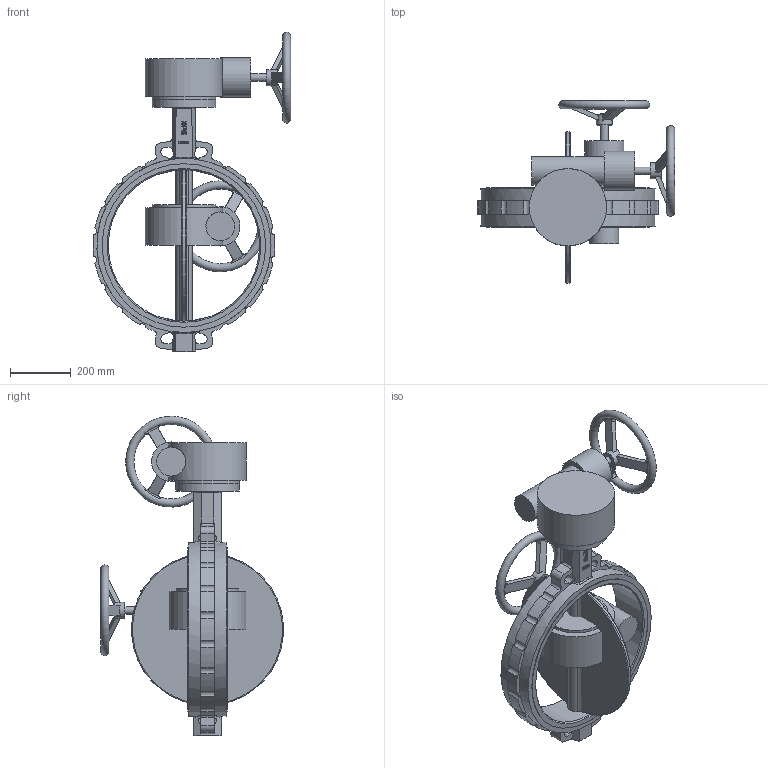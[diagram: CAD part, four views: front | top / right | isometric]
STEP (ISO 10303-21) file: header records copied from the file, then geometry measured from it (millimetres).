
FILE_DESCRIPTION( ( 'Unknown' ), '1' );
FILE_NAME( 'R:/ECCUA/ROOTSI BPS 3D vidinad/Poordklapid Wafer type/Butterfly valve(wafer) with gearbox BPS/STEP formaat/BPS 2303500 butterfly valve DN500.stp', 'Unknown', ( 'Unknown' ), ( 'Unknown' ), 'PSStep 10.1', 'Unknown', ' ' );
FILE_SCHEMA( ( 'AUTOMOTIVE_DESIGN { 1 0 10303 214 1 1 1 1 }' ) );
Length unit declared in the file: millimetre
Products named in the file (3): Assem1; Butterfly valve wafer type DN500 BPS; Gearbox DN500-600 BPS
Bounding box: 651.77 x 602.63 x 1054.89 mm (x, y, z)
Volume: 50239909.9 mm3; surface area: 3261482.7 mm2
Topology: 4 solids, 4 shells, 562 faces, 1548 edges, 1024 vertices
Faces by surface type: cylinder 194, plane 192, extrusion 88, bspline 66, torus 18, cone 4
Full cylindrical faces by diameter (mm): 22 x8, 25 x4, 53 x2, 95 x2, 130 x2, 210 x4, 255 x2, 500 x2, 540 x4, 575 x4
Entity records: 17383 total; most frequent: CARTESIAN_POINT 8327, ORIENTED_EDGE 1470, DIRECTION 1250, EDGE_CURVE 735, VERTEX_POINT 500, AXIS2_PLACEMENT_3D 451, VECTOR 348, EDGE_LOOP 347
